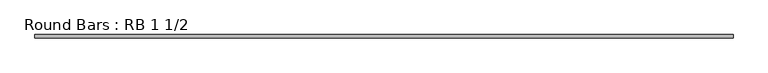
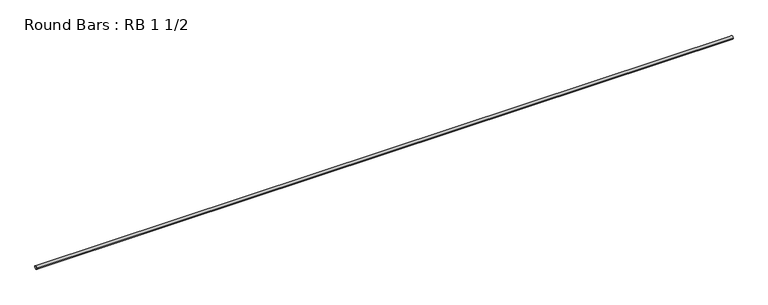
"""IFC4 building model written with IfcOpenShell, lengths in millimetres: member geometry, Round Bars : RB 1 1/2."""

from ifc_helpers import new_model, si_unit, point, frame, origin, origin_2d, place, context, project, spatial, circle_curve, trimmed, segment, composite_curve, outline, extrude, source, transform, mapped, element, save


def round_bars_rb_1_1_2_12a21a03(model_context):
    return source(origin(), model_context, "Body", "SweptSolid", [
        extrude(outline(composite_curve([segment(trimmed(circle_curve(origin_2d(), 19.05), [point((19.05, 0.0))], [point((-19.05, 0.0))], False, "CARTESIAN"), True, "CONTINUOUS"), segment(trimmed(circle_curve(origin_2d(), 19.05), [point((-19.05, 0.0))], [point((19.05, 0.0))], False, "CARTESIAN"), True, "CONTINUOUS")], self_intersect=False)), frame((-4173.6303141, 0.0, 0.0), z_axis=(1.0, 0.0, 0.0), x_axis=(0.0, 1.0, 0.0)), (0.0, 0.0, 1.0), 8289.6900506),
    ])


if __name__ == "__main__":
    model = new_model("IFC4")
    model_context = context("Model", 3, world=origin())
    ifc_project = project(units=[si_unit("LENGTHUNIT", "METRE", prefix="MILLI")], contexts=[model_context])
    site = spatial("IfcSite", under=ifc_project)
    building = spatial("IfcBuilding", under=site)
    placement = place(None, origin())
    round_bars_rb_1_1_2_shape = round_bars_rb_1_1_2_12a21a03(model_context)
    element("IfcMember", 1, ObjectType="Round Bars : RB 1 1/2", at=placement, inside=building, context=model_context, shape_type="MappedRepresentation", body=[
        mapped(round_bars_rb_1_1_2_shape, transform((0.0, 0.0, 0.0), x_axis=(1.0, 0.0, 0.0), y_axis=(0.0, 1.0, 0.0), z_axis=(0.0, 0.0, 1.0))),
    ])
    save(model, "model.ifc")
